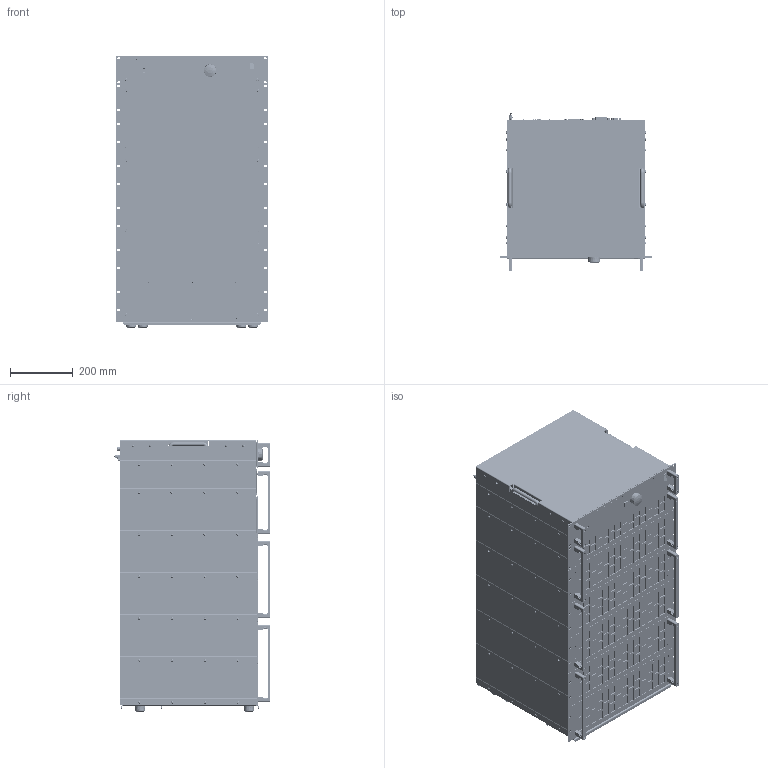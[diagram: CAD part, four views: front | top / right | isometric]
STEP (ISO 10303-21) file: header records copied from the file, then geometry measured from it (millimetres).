
FILE_DESCRIPTION(('STEP AP214'),'1');
FILE_NAME('ACL_M19_19Z_19HE_PH3_10.16_ST76_BRA_3D_02.step','2020-02-20T10:50:15',(' '),(' '),'Spatial InterOp 3D',' ',' ');
FILE_SCHEMA(('AUTOMOTIVE_DESIGN { 1 0 10303 214 1 1 1 1 }'));
Length unit declared in the file: millimetre
Products named in the file (27): *U666; *U667; *U668; *U502; *U503; *U504; 2073_Seitenteil_2HE_3D_01; 2081_Frontplatte_Leistungsteil_2HE_3D_01; 2075_Rückwand_Leistungsteil_2HE_3D_01; 2076_ACL_2HE_Seitenprofil_links_3D_01; 2077_ACL_2HE_Seitenprofil_rechts_3D_01; *U661; *U662; *U663; *U582; *U583; *U584; *U585; *U586; *U587; *U588; *U589; 2078_ACL_IO Panel_02; 2085_ACL_Rückwand_Steuerteil_Single_Phase_mit_Druck_3D_02; *U620; AutoCreatedBlock_2487
Assembly tree (186 placements, depth 2):
  (unnamed)
    *U666  x8
    *U667  x6
    *U668  x8
    *U502  x32
    *U503  x24
    *U504  x32
    2073_Seitenteil_2HE_3D_01  x2
    2081_Frontplatte_Leistungsteil_2HE_3D_01
    2075_Rückwand_Leistungsteil_2HE_3D_01
    2076_ACL_2HE_Seitenprofil_links_3D_01
    2077_ACL_2HE_Seitenprofil_rechts_3D_01
    *U661  x6
    *U662  x8
    *U663  x4
    *U582  x2
    *U583
    *U584  x3
    *U585  x2
    *U586  x2
    *U587  x13
    *U588  x16
    *U589  x6
    2078_ACL_IO Panel_02
    2085_ACL_Rückwand_Steuerteil_Single_Phase_mit_Druck_3D_02
    *U620  x4
    AutoCreatedBlock_2487
Bounding box: 482.61 x 498.4 x 861.89 mm (x, y, z)
Volume: 4982667.4 mm3; surface area: 7770968.1 mm2
Topology: 427 solids, 643 shells, 31838 faces, 79840 edges, 49815 vertices
Faces by surface type: plane 14931, cone 11028, cylinder 5075, sphere 360, torus 227, bspline 190, extrusion 27
Entity records: 943864 total; most frequent: CARTESIAN_POINT 165034, DIRECTION 122499, ORIENTED_EDGE 120108, EDGE_CURVE 60497, VECTOR 43291, LINE 43264, AXIS2_PLACEMENT_3D 39604, VERTEX_POINT 38441
